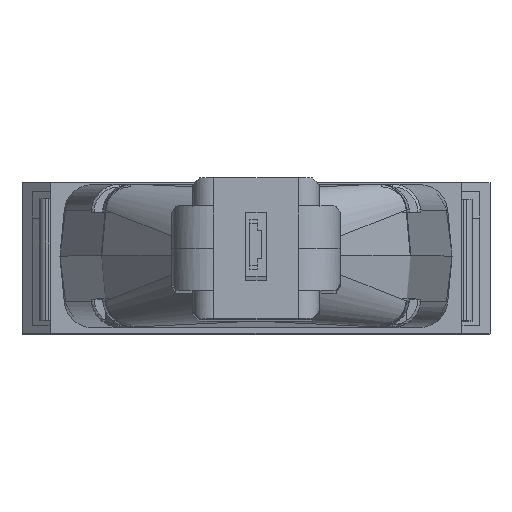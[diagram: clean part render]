
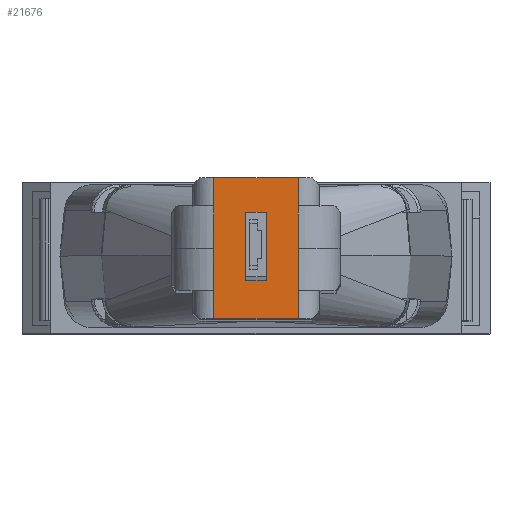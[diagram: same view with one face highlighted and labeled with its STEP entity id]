
A CAD part, top view. The second image highlights one B-rep face of the part: STEP entity #21676.
In plain terms, the highlighted planar face has unit normal (0, 0, 1).
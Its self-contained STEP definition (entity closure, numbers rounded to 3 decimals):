
#129 = VECTOR ( 'NONE', #24962, 1000. ) ;
#900 = CARTESIAN_POINT ( 'NONE',  ( 0., 0., 0. ) ) ;
#972 = EDGE_CURVE ( 'Defeatured_0_66+Defeatured_0_70+Defeatured_0_67+Defeatured_0_56', #7437, #21848, #23918, .T. ) ;
#1145 = ORIENTED_EDGE ( 'NONE', *, *, #18974, .T. ) ;
#1265 = VECTOR ( 'NONE', #14174, 1000. ) ;
#1407 = CARTESIAN_POINT ( 'NONE',  ( 3., 2.48, 0. ) ) ;
#1434 = ORIENTED_EDGE ( 'NONE', *, *, #15412, .T. ) ;
#2816 = VERTEX_POINT ( 'NONE', #29265 ) ;
#3127 = CARTESIAN_POINT ( 'NONE',  ( 0.743, -2.286, 0. ) ) ;
#3627 = EDGE_CURVE ( 'Defeatured_0_66+Defeatured_0_87+Defeatured_0_24+Defeatured_0_66', #2816, #15060, #28866, .T. ) ;
#4148 = CARTESIAN_POINT ( 'NONE',  ( -4.5, -5., 0. ) ) ;
#4404 = VECTOR ( 'NONE', #28350, 1000. ) ;
#5189 = CARTESIAN_POINT ( 'NONE',  ( -3., 3., 0. ) ) ;
#5423 = ORIENTED_EDGE ( 'NONE', *, *, #24029, .T. ) ;
#5506 = VECTOR ( 'NONE', #8783, 1000. ) ;
#5638 = DIRECTION ( 'NONE',  ( 0., 1., 0. ) ) ;
#6023 = EDGE_LOOP ( 'NONE', ( #14861, #17319, #14823, #22602, #19995, #11702, #15866, #1434, #25243, #5423 ) ) ;
#6383 = LINE ( 'NONE', #12341, #21143 ) ;
#6701 = EDGE_LOOP ( 'NONE', ( #20168, #10025, #1145, #18443 ) ) ;
#6936 = LINE ( 'NONE', #13609, #5506 ) ;
#7167 = EDGE_CURVE ( 'Defeatured_0_66+Defeatured_0_89+Defeatured_0_66+Defeatured_0_34', #18389, #9758, #8474, .T. ) ;
#7315 = DIRECTION ( 'NONE',  ( 0., 0., -1. ) ) ;
#7437 = VERTEX_POINT ( 'NONE', #11949 ) ;
#7574 = DIRECTION ( 'NONE',  ( 0., -1., 0. ) ) ;
#7973 = DIRECTION ( 'NONE',  ( 0., 1., 0. ) ) ;
#8474 = LINE ( 'NONE', #13966, #1265 ) ;
#8552 = FACE_BOUND ( 'NONE', #6701, .T. ) ;
#8783 = DIRECTION ( 'NONE',  ( 0., -1., 0. ) ) ;
#8861 = CARTESIAN_POINT ( 'NONE',  ( -3., 3., 0. ) ) ;
#9086 = LINE ( 'NONE', #5189, #4404 ) ;
#9486 = EDGE_CURVE ( 'Defeatured_0_66+Defeatured_0_56+Defeatured_0_70+Defeatured_0_108', #21848, #27529, #9086, .T. ) ;
#9607 = VERTEX_POINT ( 'NONE', #19162 ) ;
#9758 = VERTEX_POINT ( 'NONE', #10832 ) ;
#10025 = ORIENTED_EDGE ( 'NONE', *, *, #16074, .T. ) ;
#10285 = CARTESIAN_POINT ( 'NONE',  ( 3., -3., 0. ) ) ;
#10519 = CARTESIAN_POINT ( 'NONE',  ( 3., 0., 0. ) ) ;
#10832 = CARTESIAN_POINT ( 'NONE',  ( -3., -3., 0. ) ) ;
#10952 = EDGE_CURVE ( 'Defeatured_0_66+Defeatured_0_108+Defeatured_0_56+Defeatured_0_66', #27529, #18389, #20885, .T. ) ;
#10999 = CARTESIAN_POINT ( 'NONE',  ( -3., 0., 0. ) ) ;
#11459 = VERTEX_POINT ( 'NONE', #20267 ) ;
#11702 = ORIENTED_EDGE ( 'NONE', *, *, #10952, .T. ) ;
#11757 = VERTEX_POINT ( 'NONE', #14035 ) ;
#11771 = CARTESIAN_POINT ( 'NONE',  ( 4.5, 5., 0. ) ) ;
#11949 = CARTESIAN_POINT ( 'NONE',  ( 3., 5., 0. ) ) ;
#11959 = VERTEX_POINT ( 'NONE', #21559 ) ;
#12341 = CARTESIAN_POINT ( 'NONE',  ( 3., 4.5, 0. ) ) ;
#12565 = EDGE_CURVE ( 'Defeatured_0_66+Defeatured_0_67+Defeatured_0_110+Defeatured_0_70', #11959, #7437, #6383, .T. ) ;
#12588 = DIRECTION ( 'NONE',  ( 0., 1., 0. ) ) ;
#12758 = CARTESIAN_POINT ( 'NONE',  ( -0.743, 2.286, 0. ) ) ;
#13148 = VECTOR ( 'NONE', #25434, 1000. ) ;
#13609 = CARTESIAN_POINT ( 'NONE',  ( 0.743, -2.286, 0. ) ) ;
#13966 = CARTESIAN_POINT ( 'NONE',  ( -3., -2.48, 0. ) ) ;
#14035 = CARTESIAN_POINT ( 'NONE',  ( 0.743, 2.286, 0. ) ) ;
#14174 = DIRECTION ( 'NONE',  ( 0., -1., 0. ) ) ;
#14298 = CARTESIAN_POINT ( 'NONE',  ( -3., -4.5, 0. ) ) ;
#14341 = CARTESIAN_POINT ( 'NONE',  ( -3., 0., 0. ) ) ;
#14779 = CARTESIAN_POINT ( 'NONE',  ( 3., -5., 0. ) ) ;
#14823 = ORIENTED_EDGE ( 'NONE', *, *, #12565, .T. ) ;
#14861 = ORIENTED_EDGE ( 'NONE', *, *, #3627, .T. ) ;
#15060 = VERTEX_POINT ( 'NONE', #10519 ) ;
#15412 = EDGE_CURVE ( 'Defeatured_0_66+Defeatured_0_34+Defeatured_0_89+Defeatured_0_37', #9758, #15694, #23917, .T. ) ;
#15694 = VERTEX_POINT ( 'NONE', #20720 ) ;
#15740 = FACE_OUTER_BOUND ( 'NONE', #6023, .T. ) ;
#15746 = EDGE_CURVE ( 'Defeatured_0_66+Defeatured_0_13+Defeatured_0_14+Defeatured_0_16', #11459, #11757, #20707, .T. ) ;
#15866 = ORIENTED_EDGE ( 'NONE', *, *, #7167, .T. ) ;
#16028 = VECTOR ( 'NONE', #22414, 1000. ) ;
#16074 = EDGE_CURVE ( 'Defeatured_0_66+Defeatured_0_15+Defeatured_0_16+Defeatured_0_14', #21250, #9607, #25745, .T. ) ;
#17185 = CARTESIAN_POINT ( 'NONE',  ( -3., 5., 0. ) ) ;
#17319 = ORIENTED_EDGE ( 'NONE', *, *, #20374, .T. ) ;
#17324 = CARTESIAN_POINT ( 'NONE',  ( 3., 0., 0. ) ) ;
#18389 = VERTEX_POINT ( 'NONE', #10999 ) ;
#18443 = ORIENTED_EDGE ( 'NONE', *, *, #15746, .T. ) ;
#18867 = VECTOR ( 'NONE', #19000, 1000. ) ;
#18909 = VECTOR ( 'NONE', #27866, 1000. ) ;
#18957 = VERTEX_POINT ( 'NONE', #14779 ) ;
#18974 = EDGE_CURVE ( 'Defeatured_0_66+Defeatured_0_14+Defeatured_0_15+Defeatured_0_13', #9607, #11459, #26335, .T. ) ;
#19000 = DIRECTION ( 'NONE',  ( 0., -1., 0. ) ) ;
#19090 = DIRECTION ( 'NONE',  ( 1., 0., 0. ) ) ;
#19162 = CARTESIAN_POINT ( 'NONE',  ( -0.743, -2.286, 0. ) ) ;
#19176 = DIRECTION ( 'NONE',  ( 0., 1., 0. ) ) ;
#19264 = DIRECTION ( 'NONE',  ( 0., 1., 0. ) ) ;
#19995 = ORIENTED_EDGE ( 'NONE', *, *, #9486, .T. ) ;
#20168 = ORIENTED_EDGE ( 'NONE', *, *, #27160, .T. ) ;
#20219 = VECTOR ( 'NONE', #19176, 1000. ) ;
#20267 = CARTESIAN_POINT ( 'NONE',  ( -0.743, 2.286, 0. ) ) ;
#20374 = EDGE_CURVE ( 'Defeatured_0_66+Defeatured_0_110+Defeatured_0_66+Defeatured_0_67', #15060, #11959, #26244, .T. ) ;
#20707 = LINE ( 'NONE', #23319, #18909 ) ;
#20720 = CARTESIAN_POINT ( 'NONE',  ( -3., -5., 0. ) ) ;
#20885 = LINE ( 'NONE', #14341, #29180 ) ;
#21143 = VECTOR ( 'NONE', #19264, 1000. ) ;
#21250 = VERTEX_POINT ( 'NONE', #3127 ) ;
#21559 = CARTESIAN_POINT ( 'NONE',  ( 3., 3., 0. ) ) ;
#21676 = ADVANCED_FACE ( 'Defeatured_0_66', ( #15740, #8552 ), #25933, .F. ) ;
#21704 = LINE ( 'NONE', #4148, #129 ) ;
#21848 = VERTEX_POINT ( 'NONE', #17185 ) ;
#22320 = CARTESIAN_POINT ( 'NONE',  ( -0.743, -2.286, 0. ) ) ;
#22414 = DIRECTION ( 'NONE',  ( -1., 0., 0. ) ) ;
#22602 = ORIENTED_EDGE ( 'NONE', *, *, #972, .T. ) ;
#23319 = CARTESIAN_POINT ( 'NONE',  ( 0.743, 2.286, 0. ) ) ;
#23917 = LINE ( 'NONE', #14298, #18867 ) ;
#23918 = LINE ( 'NONE', #11771, #13148 ) ;
#23963 = VECTOR ( 'NONE', #7973, 1000. ) ;
#24029 = EDGE_CURVE ( 'Defeatured_0_66+Defeatured_0_24+Defeatured_0_37+Defeatured_0_87', #18957, #2816, #26885, .T. ) ;
#24114 = AXIS2_PLACEMENT_3D ( 'NONE', #900, #7315, #19090 ) ;
#24962 = DIRECTION ( 'NONE',  ( 1., 0., 0. ) ) ;
#25243 = ORIENTED_EDGE ( 'NONE', *, *, #27200, .T. ) ;
#25434 = DIRECTION ( 'NONE',  ( -1., 0., 0. ) ) ;
#25592 = VECTOR ( 'NONE', #5638, 1000. ) ;
#25745 = LINE ( 'NONE', #22320, #16028 ) ;
#25933 = PLANE ( 'NONE',  #24114 ) ;
#26244 = LINE ( 'NONE', #1407, #27694 ) ;
#26335 = LINE ( 'NONE', #12758, #20219 ) ;
#26885 = LINE ( 'NONE', #10285, #23963 ) ;
#27160 = EDGE_CURVE ( 'Defeatured_0_66+Defeatured_0_16+Defeatured_0_13+Defeatured_0_15', #11757, #21250, #6936, .T. ) ;
#27200 = EDGE_CURVE ( 'Defeatured_0_66+Defeatured_0_37+Defeatured_0_34+Defeatured_0_24', #15694, #18957, #21704, .T. ) ;
#27529 = VERTEX_POINT ( 'NONE', #8861 ) ;
#27694 = VECTOR ( 'NONE', #12588, 1000. ) ;
#27866 = DIRECTION ( 'NONE',  ( 1., 0., 0. ) ) ;
#28350 = DIRECTION ( 'NONE',  ( 0., -1., 0. ) ) ;
#28866 = LINE ( 'NONE', #17324, #25592 ) ;
#29180 = VECTOR ( 'NONE', #7574, 1000. ) ;
#29265 = CARTESIAN_POINT ( 'NONE',  ( 3., -3., 0. ) ) ;
